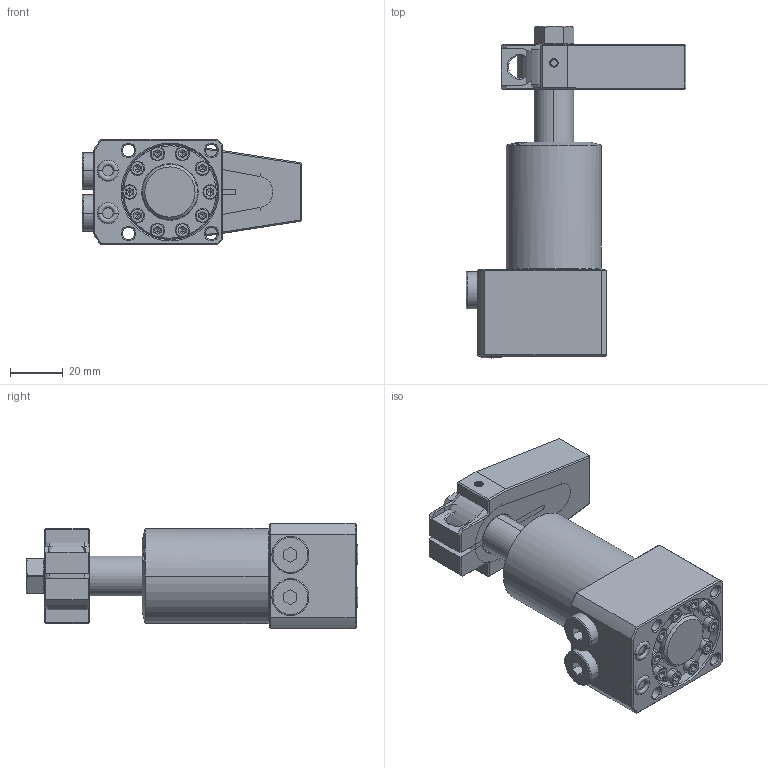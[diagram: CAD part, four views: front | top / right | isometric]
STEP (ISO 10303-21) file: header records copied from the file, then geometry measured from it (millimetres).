
FILE_DESCRIPTION((''),'2;1');
FILE_NAME('SIMP_GENERIC_SWING_CYD_36_ASM','2023-04-15T18:37:53',('Design 2'),(''),'CREO PARAMETRIC BY PTC INC, 2020053','CREO PARAMETRIC BY PTC INC, 2020053','');
FILE_SCHEMA(('CONFIG_CONTROL_DESIGN'));
Length unit declared in the file: millimetre
Products named in the file (16): BODY__; BODY_TOP_FLG___ASM; PISTON__; PISTON_ASM___ASM; SWINGER_ARM__; SWINGER_ARM_ASM___ASM; CLAMP__; HEXAGON_NUT__; CLAMP_2ND_TYPE__; ISHCS03X10; ORING-5X1-5___; 1_1_2_-__; 2_1_2_-__; HALDER_SEALING_PLUG_228_JHSBXH_ASM; G-1-8-CLOSE_PLUGE; SIMP_GENERIC_SWING_CYD_36_ASM
Assembly tree (26 placements, depth 3):
  SIMP_GENERIC_SWING_CYD_36_ASM
    BODY_TOP_FLG___ASM
      BODY__
    PISTON_ASM___ASM
      PISTON__
    SWINGER_ARM_ASM___ASM
      SWINGER_ARM__
    CLAMP__
    HEXAGON_NUT__
    CLAMP_2ND_TYPE__
    ISHCS03X10  x10
    ORING-5X1-5___  x2
    HALDER_SEALING_PLUG_228_JHSBXH_ASM
      1_1_2_-__
      2_1_2_-__
    G-1-8-CLOSE_PLUGE  x2
Bounding box: 83.3 x 125.7 x 40 mm (x, y, z)
Volume: 156009 mm3; surface area: 48793.6 mm2
Topology: 22 solids, 22 shells, 939 faces, 2176 edges, 1295 vertices
Faces by surface type: cylinder 323, plane 285, cone 216, bspline 62, torus 50, sphere 3
Entity records: 31182 total; most frequent: CARTESIAN_POINT 16779, ORIENTED_EDGE 3004, DIRECTION 2781, EDGE_CURVE 1502, AXIS2_PLACEMENT_3D 1054, VERTEX_POINT 921, EDGE_LOOP 693, VECTOR 673
